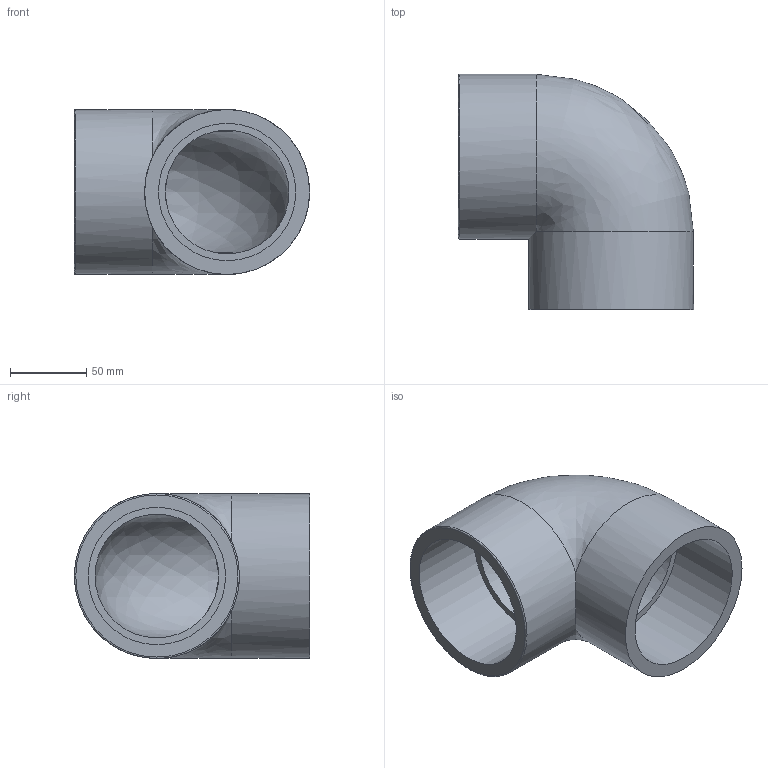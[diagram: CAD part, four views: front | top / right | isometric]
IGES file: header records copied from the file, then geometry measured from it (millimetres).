
Global section: file name: 050500090.ipt; native system: Autodesk Inventor 2015; preprocessor: unknown; author: KIM; date: 20171207.164621; units: millimetre
Bounding box: 154 x 154 x 108 mm (x, y, z)
Volume: 602282.3 mm3; surface area: 117016.5 mm2
Topology: 1 solids, 1 shells, 11 faces, 26 edges, 17 vertices
Faces by surface type: revolution 4, plane 4, cylinder 2, bspline 1
Full cylindrical faces by diameter (mm): 108 x2
